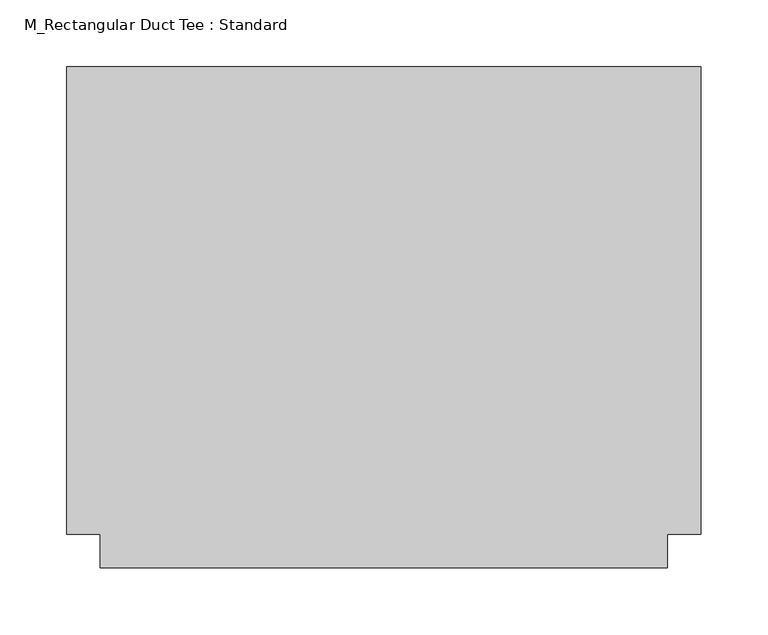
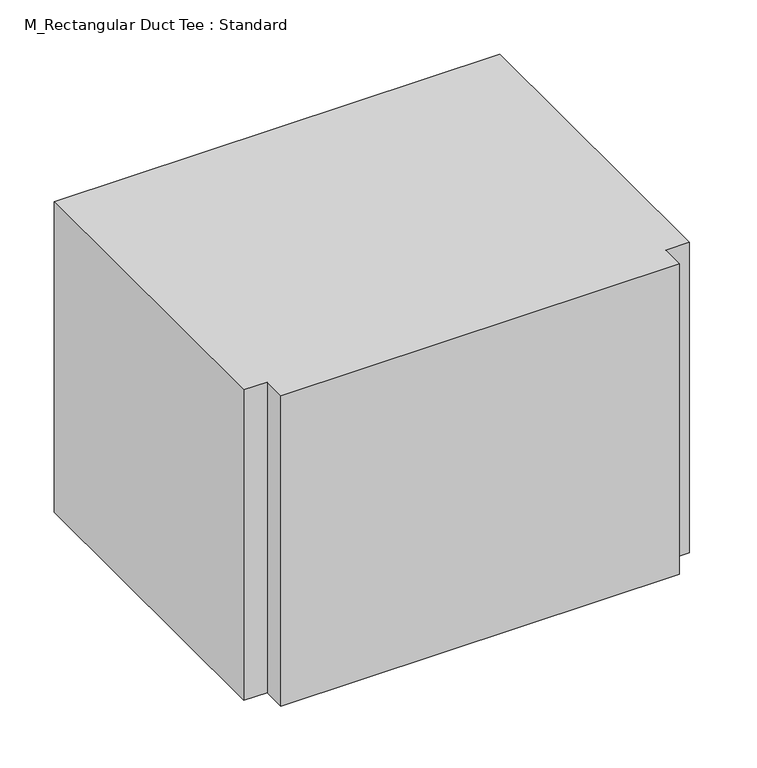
"""IFC4 building model written with IfcOpenShell, lengths in millimetres: duct fitting geometry, M_Rectangular Duct Tee : Standard."""

from ifc_helpers import new_model, si_unit, frame, origin, place, context, project, spatial, polyline, outline, extrude, source, transform, mapped, element, save


def m_rectangular_duct_tee_standard_d7adc033(model_context):
    return source(origin(), model_context, "Body", "SweptSolid", [
        extrude(outline(polyline([(-237.5, -175.0), (-237.5, 175.0), (237.5, 175.0), (237.5, -175.0), (212.5, -175.0), (212.5, -200.0), (-212.5, -200.0), (-212.5, -175.0), (-237.5, -175.0)])), frame((0.0, 0.0, -175.0), z_axis=(0.0, 0.0, 1.0), x_axis=(1.0, 0.0, 0.0)), (0.0, 0.0, 1.0), 350.0),
        extrude(outline(polyline([(-237.5, 175.0), (237.5, 175.0), (237.5, -175.0), (212.5, -175.0), (212.5, -200.0), (-212.5, -200.0), (-212.5, -175.0), (-237.5, -175.0), (-237.5, 175.0)])), frame((0.0, 0.0, -175.0), z_axis=(0.0, 0.0, 1.0), x_axis=(1.0, 0.0, 0.0)), (0.0, 0.0, 1.0), 350.0),
        extrude(outline(polyline([(-237.5, -175.0), (-237.5, 175.0), (237.5, 175.0), (237.5, -175.0), (212.5, -175.0), (212.5, -200.0), (-212.5, -200.0), (-212.5, -175.0), (-237.5, -175.0)])), frame((0.0, 0.0, -175.0), z_axis=(0.0, 0.0, 1.0), x_axis=(1.0, 0.0, 0.0)), (0.0, 0.0, 1.0), 350.0),
    ])


if __name__ == "__main__":
    model = new_model("IFC4")
    model_context = context("Model", 3, world=origin())
    ifc_project = project(units=[si_unit("LENGTHUNIT", "METRE", prefix="MILLI")], contexts=[model_context])
    site = spatial("IfcSite", under=ifc_project)
    building = spatial("IfcBuilding", under=site)
    placement = place(None, origin())
    m_rectangular_duct_tee_standard_shape = m_rectangular_duct_tee_standard_d7adc033(model_context)
    element("IfcDuctFitting", 1, ObjectType="M_Rectangular Duct Tee : Standard", at=placement, inside=building, context=model_context, shape_type="MappedRepresentation", body=[
        mapped(m_rectangular_duct_tee_standard_shape, transform((0.0, 0.0, 0.0), x_axis=(1.0, 0.0, 0.0), y_axis=(0.0, 1.0, 0.0), z_axis=(0.0, 0.0, 1.0))),
    ])
    save(model, "model.ifc")
